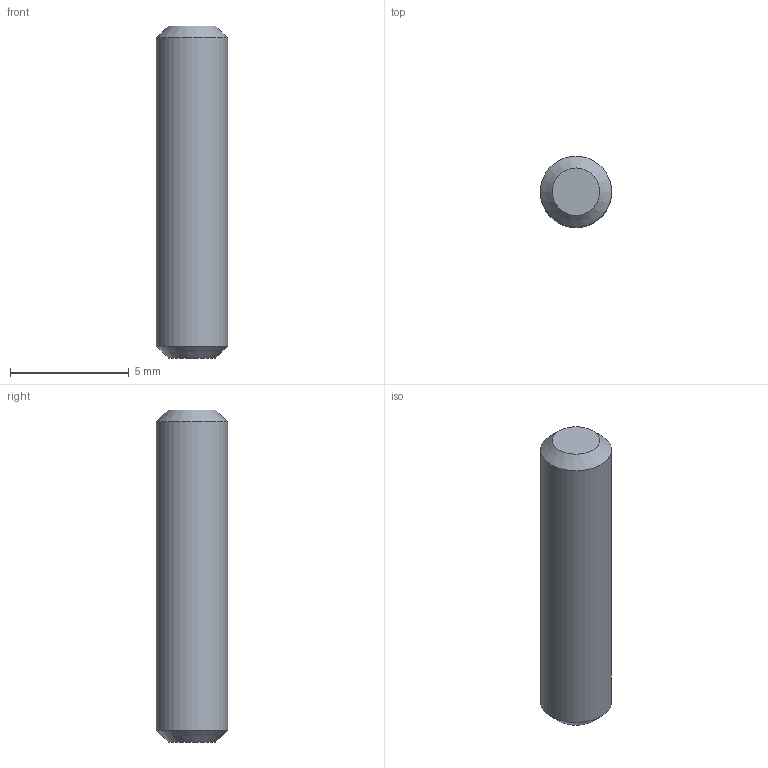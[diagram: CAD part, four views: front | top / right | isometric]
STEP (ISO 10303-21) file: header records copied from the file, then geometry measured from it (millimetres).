
FILE_DESCRIPTION(/* description */ (''),/* implementation_level */ '2;1');
FILE_NAME(/* name */ 'finger pin 2.stp',/* time_stamp */ '2023-08-14T21:48:37+03:00',/* author */ ('mosta'),/* organization */ (''),/* preprocessor_version */ 'ST-DEVELOPER v19.2',/* originating_system */ 'Autodesk Inventor 2024',/* authorisation */ '');
FILE_SCHEMA (('AUTOMOTIVE_DESIGN { 1 0 10303 214 3 1 1 }'));
Length unit declared in the file: millimetre
Products named in the file (1): finger pin 2
Bounding box: 3 x 3 x 14 mm (x, y, z)
Volume: 96.9 mm3; surface area: 139.9 mm2
Topology: 1 solids, 1 shells, 5 faces, 8 edges, 5 vertices
Faces by surface type: cone 2, plane 2, cylinder 1
Full cylindrical faces by diameter (mm): 3 x1
Entity records: 171 total; most frequent: DIRECTION 25, CARTESIAN_POINT 19, ORIENTED_EDGE 16, AXIS2_PLACEMENT_3D 11, EDGE_CURVE 8, FACE_OUTER_BOUND 5, EDGE_LOOP 5, CIRCLE 5
